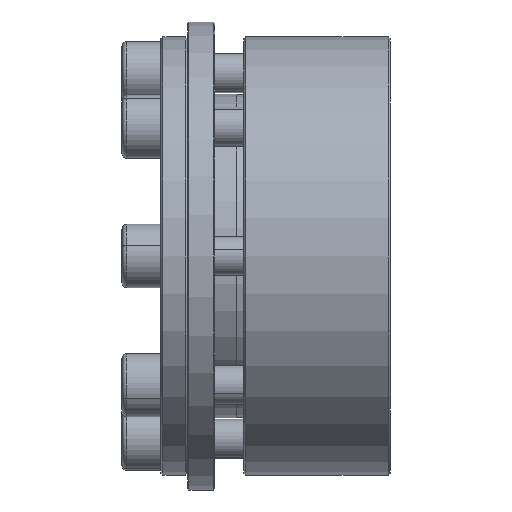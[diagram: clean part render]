
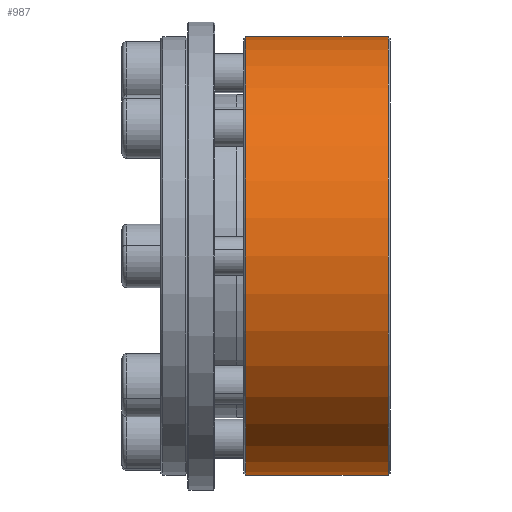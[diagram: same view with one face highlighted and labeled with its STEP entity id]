
A CAD part, front view. The second image highlights one B-rep face of the part: STEP entity #987.
In plain terms, the highlighted cylindrical face has radius 44.95 mm (diameter 89.9 mm), a partial arc.
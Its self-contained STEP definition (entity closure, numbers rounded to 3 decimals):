
#355 = FACE_OUTER_BOUND ( 'NONE', #2652, .T. ) ;
#625 = CARTESIAN_POINT ( 'NONE',  ( -59.166, 26.04, -44.95 ) ) ;
#805 = CARTESIAN_POINT ( 'NONE',  ( -59.166, 26.04, 0. ) ) ;
#987 = ADVANCED_FACE ( 'NONE', ( #355 ), #6072, .T. ) ;
#1516 = DIRECTION ( 'NONE',  ( -1., 0., 0. ) ) ;
#1721 = DIRECTION ( 'NONE',  ( 1., 0., 0. ) ) ;
#1824 = VERTEX_POINT ( 'NONE', #5442 ) ;
#1911 = AXIS2_PLACEMENT_3D ( 'NONE', #6160, #1516, #8154 ) ;
#2030 = VECTOR ( 'NONE', #5607, 1000. ) ;
#2129 = VERTEX_POINT ( 'NONE', #625 ) ;
#2365 = CIRCLE ( 'NONE', #3992, 44.95 ) ;
#2652 = EDGE_LOOP ( 'NONE', ( #7155, #7740, #2742, #6534 ) ) ;
#2742 = ORIENTED_EDGE ( 'NONE', *, *, #2793, .T. ) ;
#2793 = EDGE_CURVE ( 'NONE', #1824, #3138, #2365, .T. ) ;
#3138 = VERTEX_POINT ( 'NONE', #8004 ) ;
#3326 = EDGE_CURVE ( 'NONE', #2129, #5758, #3726, .T. ) ;
#3726 = CIRCLE ( 'NONE', #4696, 44.95 ) ;
#3992 = AXIS2_PLACEMENT_3D ( 'NONE', #8266, #1721, #4374 ) ;
#4140 = CARTESIAN_POINT ( 'NONE',  ( -88.766, 26.04, 44.95 ) ) ;
#4374 = DIRECTION ( 'NONE',  ( 0., 0., 1. ) ) ;
#4696 = AXIS2_PLACEMENT_3D ( 'NONE', #805, #5212, #7213 ) ;
#4824 = LINE ( 'NONE', #4140, #2030 ) ;
#5212 = DIRECTION ( 'NONE',  ( -1., 0., 0. ) ) ;
#5399 = CARTESIAN_POINT ( 'NONE',  ( -88.766, 26.04, -44.95 ) ) ;
#5442 = CARTESIAN_POINT ( 'NONE',  ( -88.366, 26.04, 44.95 ) ) ;
#5607 = DIRECTION ( 'NONE',  ( -1., 0., 0. ) ) ;
#5758 = VERTEX_POINT ( 'NONE', #6540 ) ;
#6072 = CYLINDRICAL_SURFACE ( 'NONE', #1911, 44.95 ) ;
#6147 = LINE ( 'NONE', #5399, #6269 ) ;
#6160 = CARTESIAN_POINT ( 'NONE',  ( -88.766, 26.04, 0. ) ) ;
#6269 = VECTOR ( 'NONE', #8141, 1000. ) ;
#6534 = ORIENTED_EDGE ( 'NONE', *, *, #7170, .F. ) ;
#6540 = CARTESIAN_POINT ( 'NONE',  ( -59.166, 26.04, 44.95 ) ) ;
#7155 = ORIENTED_EDGE ( 'NONE', *, *, #3326, .T. ) ;
#7170 = EDGE_CURVE ( 'NONE', #2129, #3138, #6147, .T. ) ;
#7213 = DIRECTION ( 'NONE',  ( 0., 0., -1. ) ) ;
#7740 = ORIENTED_EDGE ( 'NONE', *, *, #7927, .T. ) ;
#7927 = EDGE_CURVE ( 'NONE', #5758, #1824, #4824, .T. ) ;
#8004 = CARTESIAN_POINT ( 'NONE',  ( -88.366, 26.04, -44.95 ) ) ;
#8141 = DIRECTION ( 'NONE',  ( -1., 0., 0. ) ) ;
#8154 = DIRECTION ( 'NONE',  ( 0., 0., -1. ) ) ;
#8266 = CARTESIAN_POINT ( 'NONE',  ( -88.366, 26.04, 0. ) ) ;
